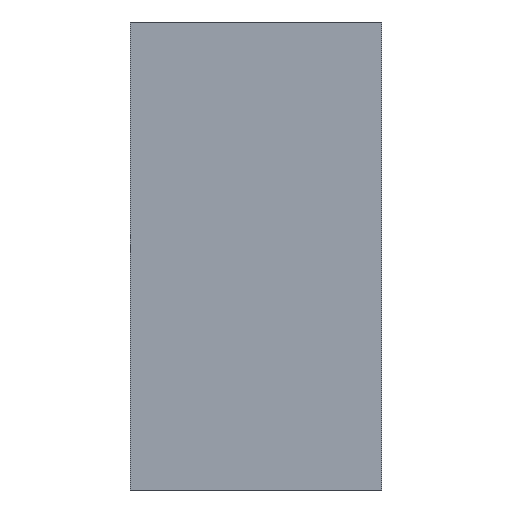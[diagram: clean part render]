
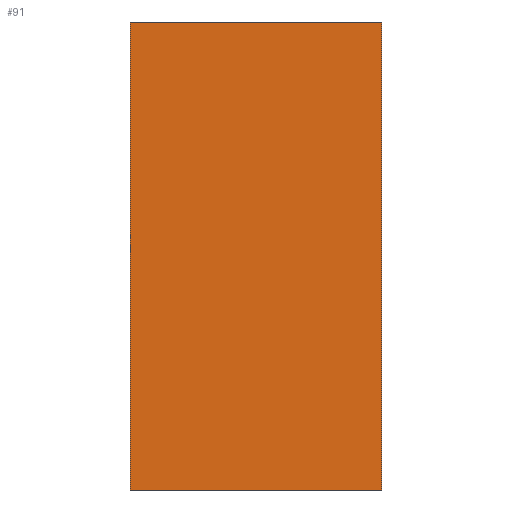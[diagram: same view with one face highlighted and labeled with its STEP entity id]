
A CAD part, front view. The second image highlights one B-rep face of the part: STEP entity #91.
In plain terms, the highlighted planar face has unit normal (0, -1, 0).
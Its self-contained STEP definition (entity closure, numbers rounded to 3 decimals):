
#21 = EDGE_CURVE('',#22,#24,#26,.T.);
#22 = VERTEX_POINT('',#23);
#23 = CARTESIAN_POINT('',(0.,0.,0.));
#24 = VERTEX_POINT('',#25);
#25 = CARTESIAN_POINT('',(0.,0.,8.));
#26 = LINE('',#27,#28);
#27 = CARTESIAN_POINT('',(0.,0.,0.));
#28 = VECTOR('',#29,1.);
#29 = DIRECTION('',(0.,0.,1.));
#91 = ADVANCED_FACE('',(#92),#117,.F.);
#92 = FACE_BOUND('',#93,.F.);
#93 = EDGE_LOOP('',(#94,#102,#103,#111));
#94 = ORIENTED_EDGE('',*,*,#95,.F.);
#95 = EDGE_CURVE('',#22,#96,#98,.T.);
#96 = VERTEX_POINT('',#97);
#97 = CARTESIAN_POINT('',(4.3,0.,0.));
#98 = LINE('',#99,#100);
#99 = CARTESIAN_POINT('',(0.,0.,0.));
#100 = VECTOR('',#101,1.);
#101 = DIRECTION('',(1.,0.,0.));
#102 = ORIENTED_EDGE('',*,*,#21,.T.);
#103 = ORIENTED_EDGE('',*,*,#104,.T.);
#104 = EDGE_CURVE('',#24,#105,#107,.T.);
#105 = VERTEX_POINT('',#106);
#106 = CARTESIAN_POINT('',(4.3,0.,8.));
#107 = LINE('',#108,#109);
#108 = CARTESIAN_POINT('',(0.,0.,8.));
#109 = VECTOR('',#110,1.);
#110 = DIRECTION('',(1.,0.,0.));
#111 = ORIENTED_EDGE('',*,*,#112,.F.);
#112 = EDGE_CURVE('',#96,#105,#113,.T.);
#113 = LINE('',#114,#115);
#114 = CARTESIAN_POINT('',(4.3,0.,0.));
#115 = VECTOR('',#116,1.);
#116 = DIRECTION('',(0.,0.,1.));
#117 = PLANE('',#118);
#118 = AXIS2_PLACEMENT_3D('',#119,#120,#121);
#119 = CARTESIAN_POINT('',(0.,0.,0.));
#120 = DIRECTION('',(0.,1.,0.));
#121 = DIRECTION('',(0.,0.,1.));
